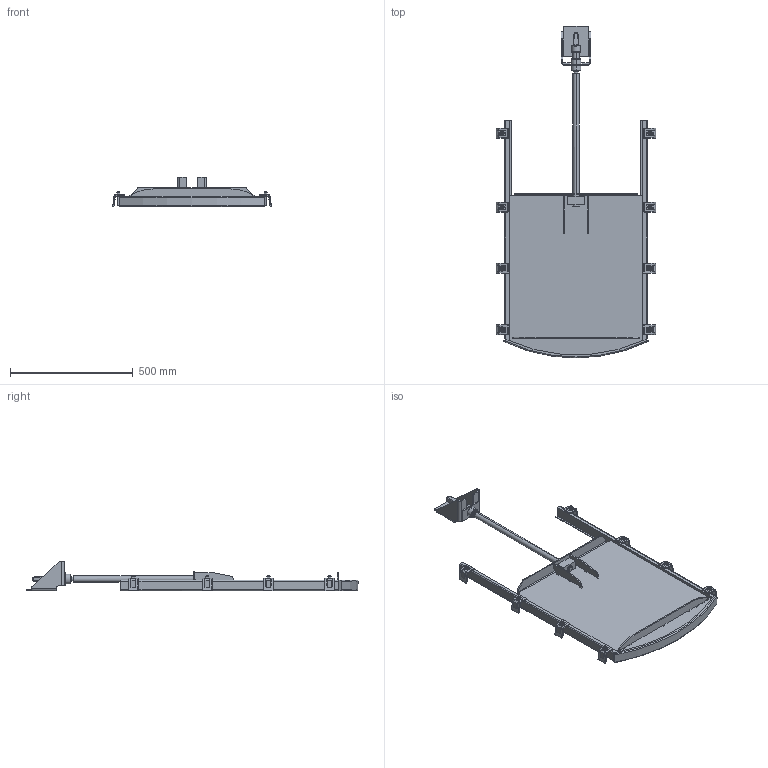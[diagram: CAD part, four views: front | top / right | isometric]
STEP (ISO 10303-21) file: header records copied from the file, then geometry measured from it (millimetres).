
FILE_DESCRIPTION (( 'STEP AP214' ), '1' );
FILE_NAME ('LW 500 gerad betoniert.STEP', '2022-05-19T05:39:44', ( '' ), ( '' ), 'SwSTEP 2.0', 'SolidWorks 2021', '' );
FILE_SCHEMA (( 'AUTOMOTIVE_DESIGN' ));
Length unit declared in the file: millimetre
Products named in the file (1): LW 500 gerad betoniert
Bounding box: 649.57 x 1355 x 121 mm (x, y, z)
Volume: 4846088.2 mm3; surface area: 1449270.1 mm2
Topology: 1 solids, 1 shells, 1316 faces, 3112 edges, 1744 vertices
Faces by surface type: cylinder 517, plane 379, cone 118, sphere 112, torus 104, bspline 86
Entity records: 55162 total; most frequent: CARTESIAN_POINT 11593, DIRECTION 6300, ORIENTED_EDGE 5992, EDGE_CURVE 2996, AXIS2_PLACEMENT_3D 2497, VERTEX_POINT 1728, EDGE_LOOP 1398, UNCERTAINTY_MEASURE_WITH_UNIT 1319
